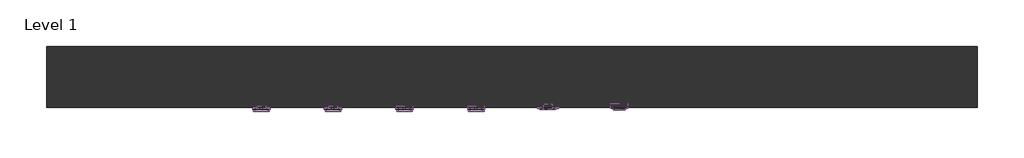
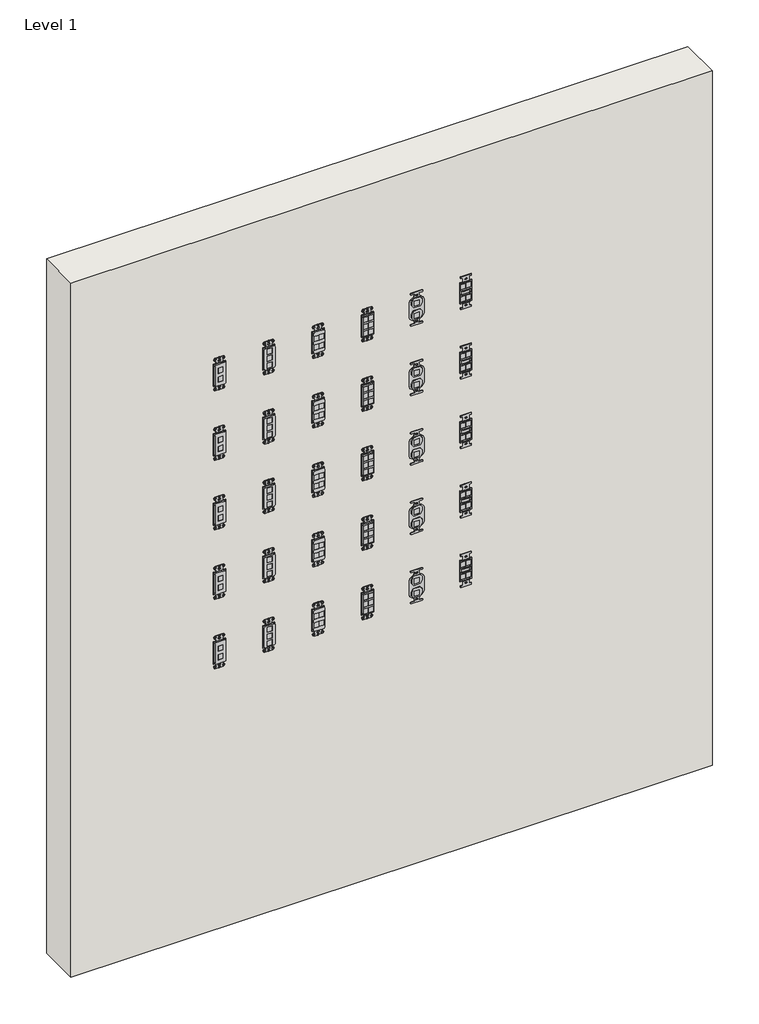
# One storey, incomplete: 30 electric appliances, 1 wall.
"""IFC4 building model written with IfcOpenShell, lengths in millimetres."""

from ifc_helpers import new_model, si_unit, origin, origin_with_axes, place, context, project, spatial, polyline, outline, extrude, transform, mapped, element, save
from components import electric_appliance_ba54838b, electric_appliance_889624e1, electric_appliance_8460f8e4, electric_appliance_de9a6db4, electric_appliance_2_ports_designer_106_mounting_faceplate_7aad72b4, electric_appliance_4_ports_designer_106_mounting_faceplate_b852cab8

model = new_model("IFC4")

# Units and contexts
model_context = context("Model", 3, world=origin())
ifc_project = project(units=[si_unit("LENGTHUNIT", "METRE", prefix="MILLI")], contexts=[model_context])

# Site, building, storey
site = spatial("IfcSite", under=ifc_project)
building = spatial("IfcBuilding", under=site)
storey = spatial("IfcBuildingStorey", under=building, Name="Level 1", Elevation=0.0)

# Electric appliances
placement = place(None, origin())
electric_appliance_shape = electric_appliance_ba54838b(model_context)
element("IfcElectricAppliance", 1, ObjectType="Data_Device-Network-Leviton-QuickPort-Duplex : 2-Ports Floor Box Mounting Bezel, Color Ivory", at=placement, inside=storey, context=model_context, shape_type="MappedRepresentation", body=[
    mapped(electric_appliance_shape, transform((-2044.0352696, 1808.9666757, 1320.4257175), x_axis=(1.0, 0.0, 0.0), y_axis=(0.0, 0.0, 1.0), z_axis=(0.0, -1.0, 0.0))),
])
element("IfcElectricAppliance", 2, ObjectType="Data_Device-Network-Leviton-QuickPort-Duplex : 2-Ports Floor Box Mounting Bezel, Color Light Almond", at=placement, inside=storey, context=model_context, shape_type="MappedRepresentation", body=[
    mapped(electric_appliance_shape, transform((-2044.0352696, 1808.9666757, 1099.4457175), x_axis=(1.0, 0.0, 0.0), y_axis=(0.0, 0.0, 1.0), z_axis=(0.0, -1.0, 0.0))),
])
element("IfcElectricAppliance", 3, ObjectType="Data_Device-Network-Leviton-QuickPort-Duplex : 2-Ports Floor Box Mounting Bezel, Color White", at=placement, inside=storey, context=model_context, shape_type="MappedRepresentation", body=[
    mapped(electric_appliance_shape, transform((-2044.0352696, 1808.9666757, 878.4657175), x_axis=(1.0, 0.0, 0.0), y_axis=(0.0, 0.0, 1.0), z_axis=(0.0, -1.0, 0.0))),
])
element("IfcElectricAppliance", 4, ObjectType="Data_Device-Network-Leviton-QuickPort-Duplex : 2-Ports Floor Box Mounting Bezel, Color Grey", at=placement, inside=storey, context=model_context, shape_type="MappedRepresentation", body=[
    mapped(electric_appliance_shape, transform((-2044.0352696, 1808.9666757, 1541.4057175), x_axis=(1.0, 0.0, 0.0), y_axis=(0.0, 0.0, 1.0), z_axis=(0.0, -1.0, 0.0))),
])
element("IfcElectricAppliance", 5, ObjectType="Data_Device-Network-Leviton-QuickPort-Duplex : 2-Ports Floor Box Mounting Bezel, Color Black", at=placement, inside=storey, context=model_context, shape_type="MappedRepresentation", body=[
    mapped(electric_appliance_shape, transform((-2044.0352696, 1808.9666757, 1762.3857175), x_axis=(1.0, 0.0, 0.0), y_axis=(0.0, 0.0, 1.0), z_axis=(0.0, -1.0, 0.0))),
])
electric_appliance_2_shape = electric_appliance_889624e1(model_context)
element("IfcElectricAppliance", 6, ObjectType="Data_Device-Network-Leviton-QuickPort-Duplex : 3-Ports Floor Box Mounting Bezel, Color Ivory", at=placement, inside=storey, context=model_context, shape_type="MappedRepresentation", body=[
    mapped(electric_appliance_2_shape, transform((-1895.5429619, 1808.9666757, 1320.4257175), x_axis=(1.0, 0.0, 0.0), y_axis=(0.0, 0.0, 1.0), z_axis=(0.0, -1.0, 0.0))),
])
element("IfcElectricAppliance", 7, ObjectType="Data_Device-Network-Leviton-QuickPort-Duplex : 3-Ports Floor Box Mounting Bezel, Color Light Almond", at=placement, inside=storey, context=model_context, shape_type="MappedRepresentation", body=[
    mapped(electric_appliance_2_shape, transform((-1895.5429619, 1808.9666757, 1099.4457175), x_axis=(1.0, 0.0, 0.0), y_axis=(0.0, 0.0, 1.0), z_axis=(0.0, -1.0, 0.0))),
])
element("IfcElectricAppliance", 8, ObjectType="Data_Device-Network-Leviton-QuickPort-Duplex : 3-Ports Floor Box Mounting Bezel, Color White", at=placement, inside=storey, context=model_context, shape_type="MappedRepresentation", body=[
    mapped(electric_appliance_2_shape, transform((-1895.5429619, 1808.9666757, 878.4657175), x_axis=(1.0, 0.0, 0.0), y_axis=(0.0, 0.0, 1.0), z_axis=(0.0, -1.0, 0.0))),
])
element("IfcElectricAppliance", 9, ObjectType="Data_Device-Network-Leviton-QuickPort-Duplex : 3-Ports Floor Box Mounting Bezel, Color Grey", at=placement, inside=storey, context=model_context, shape_type="MappedRepresentation", body=[
    mapped(electric_appliance_2_shape, transform((-1895.5429619, 1808.9666757, 1541.4057175), x_axis=(1.0, 0.0, 0.0), y_axis=(0.0, 0.0, 1.0), z_axis=(0.0, -1.0, 0.0))),
])
element("IfcElectricAppliance", 10, ObjectType="Data_Device-Network-Leviton-QuickPort-Duplex : 3-Ports Floor Box Mounting Bezel, Color Black", at=placement, inside=storey, context=model_context, shape_type="MappedRepresentation", body=[
    mapped(electric_appliance_2_shape, transform((-1895.5429619, 1808.9666757, 1762.3857175), x_axis=(1.0, 0.0, 0.0), y_axis=(0.0, 0.0, 1.0), z_axis=(0.0, -1.0, 0.0))),
])
electric_appliance_3_shape = electric_appliance_8460f8e4(model_context)
element("IfcElectricAppliance", 11, ObjectType="Data_Device-Network-Leviton-QuickPort-Duplex : 4-Ports Floor Box Mounting Bezel, Color Ivory", at=placement, inside=storey, context=model_context, shape_type="MappedRepresentation", body=[
    mapped(electric_appliance_3_shape, transform((-1747.0506543, 1808.9666757, 1320.4257175), x_axis=(1.0, 0.0, 0.0), y_axis=(0.0, 0.0, 1.0), z_axis=(0.0, -1.0, 0.0))),
])
element("IfcElectricAppliance", 12, ObjectType="Data_Device-Network-Leviton-QuickPort-Duplex : 4-Ports Floor Box Mounting Bezel, Color Light Almond", at=placement, inside=storey, context=model_context, shape_type="MappedRepresentation", body=[
    mapped(electric_appliance_3_shape, transform((-1747.0506543, 1808.9666757, 1099.4457175), x_axis=(1.0, 0.0, 0.0), y_axis=(0.0, 0.0, 1.0), z_axis=(0.0, -1.0, 0.0))),
])
element("IfcElectricAppliance", 13, ObjectType="Data_Device-Network-Leviton-QuickPort-Duplex : 4-Ports Floor Box Mounting Bezel, Color White", at=placement, inside=storey, context=model_context, shape_type="MappedRepresentation", body=[
    mapped(electric_appliance_3_shape, transform((-1747.0506543, 1808.9666757, 878.4657175), x_axis=(1.0, 0.0, 0.0), y_axis=(0.0, 0.0, 1.0), z_axis=(0.0, -1.0, 0.0))),
])
element("IfcElectricAppliance", 14, ObjectType="Data_Device-Network-Leviton-QuickPort-Duplex : 4-Ports Floor Box Mounting Bezel, Color Grey", at=placement, inside=storey, context=model_context, shape_type="MappedRepresentation", body=[
    mapped(electric_appliance_3_shape, transform((-1747.0506543, 1808.9666757, 1541.4057175), x_axis=(1.0, 0.0, 0.0), y_axis=(0.0, 0.0, 1.0), z_axis=(0.0, -1.0, 0.0))),
])
element("IfcElectricAppliance", 15, ObjectType="Data_Device-Network-Leviton-QuickPort-Duplex : 4-Ports Floor Box Mounting Bezel, Color Black", at=placement, inside=storey, context=model_context, shape_type="MappedRepresentation", body=[
    mapped(electric_appliance_3_shape, transform((-1747.0506543, 1808.9666757, 1762.3857175), x_axis=(1.0, 0.0, 0.0), y_axis=(0.0, 0.0, 1.0), z_axis=(0.0, -1.0, 0.0))),
])
electric_appliance_4_shape = electric_appliance_de9a6db4(model_context)
element("IfcElectricAppliance", 16, ObjectType="Data_Device-Network-Leviton-QuickPort-Duplex : 6-Ports Floor Box Mounting Bezel, Color Ivory", at=placement, inside=storey, context=model_context, shape_type="MappedRepresentation", body=[
    mapped(electric_appliance_4_shape, transform((-1598.5583466, 1808.9666757, 1320.4257175), x_axis=(1.0, 0.0, 0.0), y_axis=(0.0, 0.0, 1.0), z_axis=(0.0, -1.0, 0.0))),
])
element("IfcElectricAppliance", 17, ObjectType="Data_Device-Network-Leviton-QuickPort-Duplex : 6-Ports Floor Box Mounting Bezel, Color Light Almond", at=placement, inside=storey, context=model_context, shape_type="MappedRepresentation", body=[
    mapped(electric_appliance_4_shape, transform((-1598.5583466, 1808.9666757, 1099.4457175), x_axis=(1.0, 0.0, 0.0), y_axis=(0.0, 0.0, 1.0), z_axis=(0.0, -1.0, 0.0))),
])
element("IfcElectricAppliance", 18, ObjectType="Data_Device-Network-Leviton-QuickPort-Duplex : 6-Ports Floor Box Mounting Bezel, Color White", at=placement, inside=storey, context=model_context, shape_type="MappedRepresentation", body=[
    mapped(electric_appliance_4_shape, transform((-1598.5583466, 1808.9666757, 878.4657175), x_axis=(1.0, 0.0, 0.0), y_axis=(0.0, 0.0, 1.0), z_axis=(0.0, -1.0, 0.0))),
])
element("IfcElectricAppliance", 19, ObjectType="Data_Device-Network-Leviton-QuickPort-Duplex : 6-Ports Floor Box Mounting Bezel, Color Grey", at=placement, inside=storey, context=model_context, shape_type="MappedRepresentation", body=[
    mapped(electric_appliance_4_shape, transform((-1598.5583466, 1808.9666757, 1541.4057175), x_axis=(1.0, 0.0, 0.0), y_axis=(0.0, 0.0, 1.0), z_axis=(0.0, -1.0, 0.0))),
])
element("IfcElectricAppliance", 20, ObjectType="Data_Device-Network-Leviton-QuickPort-Duplex : 6-Ports Floor Box Mounting Bezel, Color Black", at=placement, inside=storey, context=model_context, shape_type="MappedRepresentation", body=[
    mapped(electric_appliance_4_shape, transform((-1598.5583466, 1808.9666757, 1762.3857175), x_axis=(1.0, 0.0, 0.0), y_axis=(0.0, 0.0, 1.0), z_axis=(0.0, -1.0, 0.0))),
])
electric_appliance_2_ports_designer_106_mounting_faceplate_shape = electric_appliance_2_ports_designer_106_mounting_faceplate_7aad72b4(model_context)
element("IfcElectricAppliance", 21, ObjectType="Data_Device-Network-Leviton-QuickPort-Duplex : 2-Ports Designer 106 Mounting Faceplate Frame, Color Light Almond", at=placement, inside=storey, context=model_context, shape_type="MappedRepresentation", body=[
    mapped(electric_appliance_2_ports_designer_106_mounting_faceplate_shape, transform((-1450.0660389, 1808.9666757, 1099.4457175), x_axis=(1.0, 0.0, 0.0), y_axis=(0.0, 0.0, 1.0), z_axis=(0.0, -1.0, 0.0))),
])
electric_appliance_4_ports_designer_106_mounting_faceplate_shape = electric_appliance_4_ports_designer_106_mounting_faceplate_b852cab8(model_context)
element("IfcElectricAppliance", 22, ObjectType="Data_Device-Network-Leviton-QuickPort-Duplex : 4-Ports Designer 106 Mounting Faceplate Frame, Color Light Almond", at=placement, inside=storey, context=model_context, shape_type="MappedRepresentation", body=[
    mapped(electric_appliance_4_ports_designer_106_mounting_faceplate_shape, transform((-1301.5737312, 1808.9666757, 1099.4457175), x_axis=(1.0, 0.0, 0.0), y_axis=(0.0, 0.0, 1.0), z_axis=(0.0, -1.0, 0.0))),
])
element("IfcElectricAppliance", 23, ObjectType="Data_Device-Network-Leviton-QuickPort-Duplex : 2-Ports Designer 106 Mounting Faceplate Frame, Color Black", at=placement, inside=storey, context=model_context, shape_type="MappedRepresentation", body=[
    mapped(electric_appliance_2_ports_designer_106_mounting_faceplate_shape, transform((-1450.0660389, 1808.9666757, 1762.3857175), x_axis=(1.0, 0.0, 0.0), y_axis=(0.0, 0.0, 1.0), z_axis=(0.0, -1.0, 0.0))),
])
element("IfcElectricAppliance", 24, ObjectType="Data_Device-Network-Leviton-QuickPort-Duplex : 2-Ports Designer 106 Mounting Faceplate Frame, Color Grey", at=placement, inside=storey, context=model_context, shape_type="MappedRepresentation", body=[
    mapped(electric_appliance_2_ports_designer_106_mounting_faceplate_shape, transform((-1450.0660389, 1808.9666757, 1541.4057175), x_axis=(1.0, 0.0, 0.0), y_axis=(0.0, 0.0, 1.0), z_axis=(0.0, -1.0, 0.0))),
])
element("IfcElectricAppliance", 25, ObjectType="Data_Device-Network-Leviton-QuickPort-Duplex : 2-Ports Designer 106 Mounting Faceplate Frame, Color Ivory", at=placement, inside=storey, context=model_context, shape_type="MappedRepresentation", body=[
    mapped(electric_appliance_2_ports_designer_106_mounting_faceplate_shape, transform((-1450.0660389, 1808.9666757, 1320.4257175), x_axis=(1.0, 0.0, 0.0), y_axis=(0.0, 0.0, 1.0), z_axis=(0.0, -1.0, 0.0))),
])
element("IfcElectricAppliance", 26, ObjectType="Data_Device-Network-Leviton-QuickPort-Duplex : 2-Ports Designer 106 Mounting Faceplate Frame, Color White", at=placement, inside=storey, context=model_context, shape_type="MappedRepresentation", body=[
    mapped(electric_appliance_2_ports_designer_106_mounting_faceplate_shape, transform((-1450.0660389, 1808.9666757, 878.4657175), x_axis=(1.0, 0.0, 0.0), y_axis=(0.0, 0.0, 1.0), z_axis=(0.0, -1.0, 0.0))),
])
element("IfcElectricAppliance", 27, ObjectType="Data_Device-Network-Leviton-QuickPort-Duplex : 4-Ports Designer 106 Mounting Faceplate Frame, Color Black", at=placement, inside=storey, context=model_context, shape_type="MappedRepresentation", body=[
    mapped(electric_appliance_4_ports_designer_106_mounting_faceplate_shape, transform((-1301.5737312, 1808.9666757, 1762.3857175), x_axis=(1.0, 0.0, 0.0), y_axis=(0.0, 0.0, 1.0), z_axis=(0.0, -1.0, 0.0))),
])
element("IfcElectricAppliance", 28, ObjectType="Data_Device-Network-Leviton-QuickPort-Duplex : 4-Ports Designer 106 Mounting Faceplate Frame, Color Grey", at=placement, inside=storey, context=model_context, shape_type="MappedRepresentation", body=[
    mapped(electric_appliance_4_ports_designer_106_mounting_faceplate_shape, transform((-1301.5737312, 1808.9666757, 1541.4057175), x_axis=(1.0, 0.0, 0.0), y_axis=(0.0, 0.0, 1.0), z_axis=(0.0, -1.0, 0.0))),
])
element("IfcElectricAppliance", 29, ObjectType="Data_Device-Network-Leviton-QuickPort-Duplex : 4-Ports Designer 106 Mounting Faceplate Frame, Color Ivory", at=placement, inside=storey, context=model_context, shape_type="MappedRepresentation", body=[
    mapped(electric_appliance_4_ports_designer_106_mounting_faceplate_shape, transform((-1301.5737312, 1808.9666757, 1320.4257175), x_axis=(1.0, 0.0, 0.0), y_axis=(0.0, 0.0, 1.0), z_axis=(0.0, -1.0, 0.0))),
])
element("IfcElectricAppliance", 30, ObjectType="Data_Device-Network-Leviton-QuickPort-Duplex : 4-Ports Designer 106 Mounting Faceplate Frame, Color White", at=placement, inside=storey, context=model_context, shape_type="MappedRepresentation", body=[
    mapped(electric_appliance_4_ports_designer_106_mounting_faceplate_shape, transform((-1301.5737312, 1808.9666757, 878.4657175), x_axis=(1.0, 0.0, 0.0), y_axis=(0.0, 0.0, 1.0), z_axis=(0.0, -1.0, 0.0))),
])

# Wall
element("IfcWall", 31, ObjectType="Generic - 5\"", at=placement, inside=storey, context=model_context, shape_type="SweptSolid", body=[
    extrude(outline(polyline([(-582.1372927, 1808.9666757), (-2512.5372927, 1808.9666757), (-2512.5372927, 1935.9666757), (-582.1372927, 1935.9666757), (-582.1372927, 1808.9666757)])), origin_with_axes(), (0.0, 0.0, 1.0), 2209.8),
])

save(model, "model.ifc")
